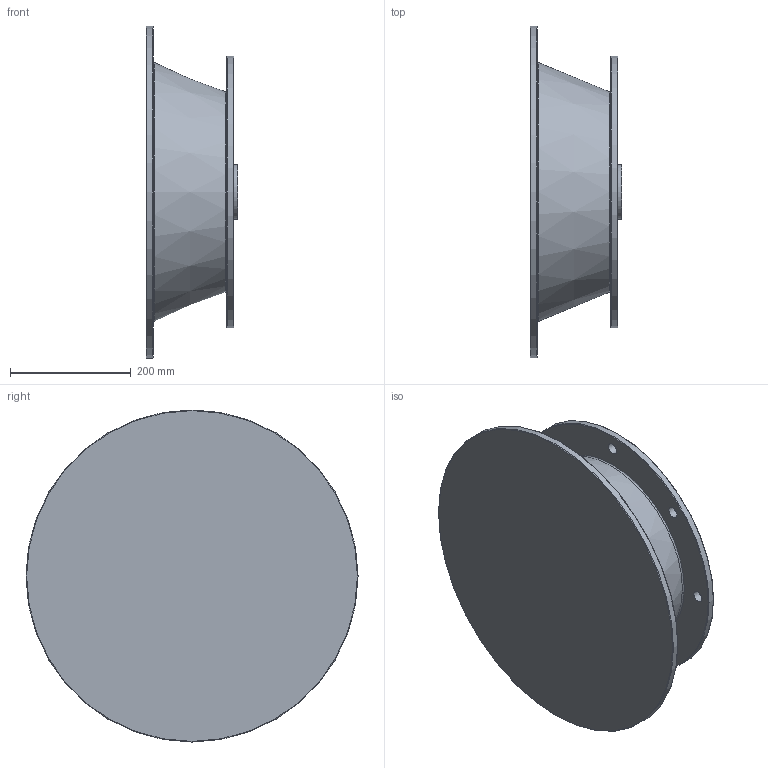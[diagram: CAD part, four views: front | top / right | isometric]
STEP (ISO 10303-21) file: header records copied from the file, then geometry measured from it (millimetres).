
FILE_DESCRIPTION((''),'2;1');
FILE_NAME('D:\PAWEŁ\ZLECENIA\2011 DualSystem\Przekładnie DR\DR160\STEP\225-S_B5_L145,5.stp','2012-06-11T13:04:44',('admin'),(''),'Autodesk Inventor 2009','Autodesk Inventor 2009','');
FILE_SCHEMA(('AUTOMOTIVE_DESIGN { 1 0 10303 214 1 1 1 1 }'));
Length unit declared in the file: millimetre
Products named in the file (1): 225-S_B5_L145,5
Bounding box: 152 x 550 x 550 mm (x, y, z)
Volume: 5173887.4 mm3; surface area: 1042002.9 mm2
Topology: 1 solids, 1 shells, 34 faces, 70 edges, 44 vertices
Faces by surface type: plane 11, bspline 10, cylinder 6, torus 5, cone 2
Full cylindrical faces by diameter (mm): 90 x1, 317.024 x1, 330 x1, 450 x1, 550 x1
Entity records: 1083 total; most frequent: CARTESIAN_POINT 369, DIRECTION 136, ORIENTED_EDGE 96, EDGE_LOOP 78, AXIS2_PLACEMENT_3D 63, EDGE_CURVE 48, VERTEX_POINT 44, FACE_BOUND 44
